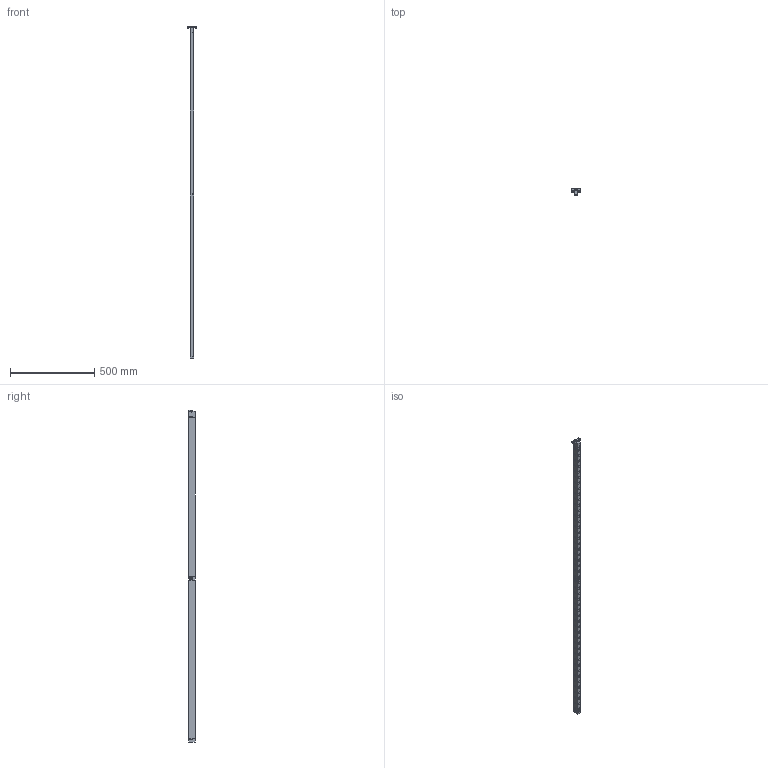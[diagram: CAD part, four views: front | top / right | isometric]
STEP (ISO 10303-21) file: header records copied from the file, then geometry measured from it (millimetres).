
FILE_DESCRIPTION(/* description */ (''),/* implementation_level */ '2;1');
FILE_NAME(/* name */ 'S:\EASCN Vault\Designs\Standard Part\DIE LIFTERS\EHB\EHB- 3D step\EHB22 - 3D step complete serie\EHB 22-48.stp',/* time_stamp */ '2019-11-21T16:14:23+08:00',/* author */ ('yue.yang'),/* organization */ (''),/* preprocessor_version */ 'ST-DEVELOPER v17',/* originating_system */ 'Autodesk Inventor 2019',/* authorisation */ '');
FILE_SCHEMA (('AUTOMOTIVE_DESIGN { 1 0 10303 214 3 1 1 }'));
Products named in the file (1): EHB 22-48_Shrinkwrap_1
Bounding box: 58 x 37.8 x 1969 mm (x, y, z)
Volume: 1261640.4 mm3; surface area: 495743.9 mm2
Topology: 163 solids, 163 shells, 1553 faces, 4298 edges, 3120 vertices
Faces by surface type: plane 530, cylinder 500, torus 240, cone 235, sphere 48
Full cylindrical faces by diameter (mm): 3 x3, 4.134 x1, 5 x27, 5.5 x5, 6 x50, 6.647 x2, 8 x2, 10 x8, 10.5 x1, 12.2 x48, 16 x48, 16.4 x48, 17.05 x48, 19.05 x48, 19.2 x48
Entity records: 58593 total; most frequent: CARTESIAN_POINT 14721, DIRECTION 9623, ORIENTED_EDGE 8296, AXIS2_PLACEMENT_3D 4297, EDGE_CURVE 4148, VERTEX_POINT 3120, CIRCLE 2741, EDGE_LOOP 2008
